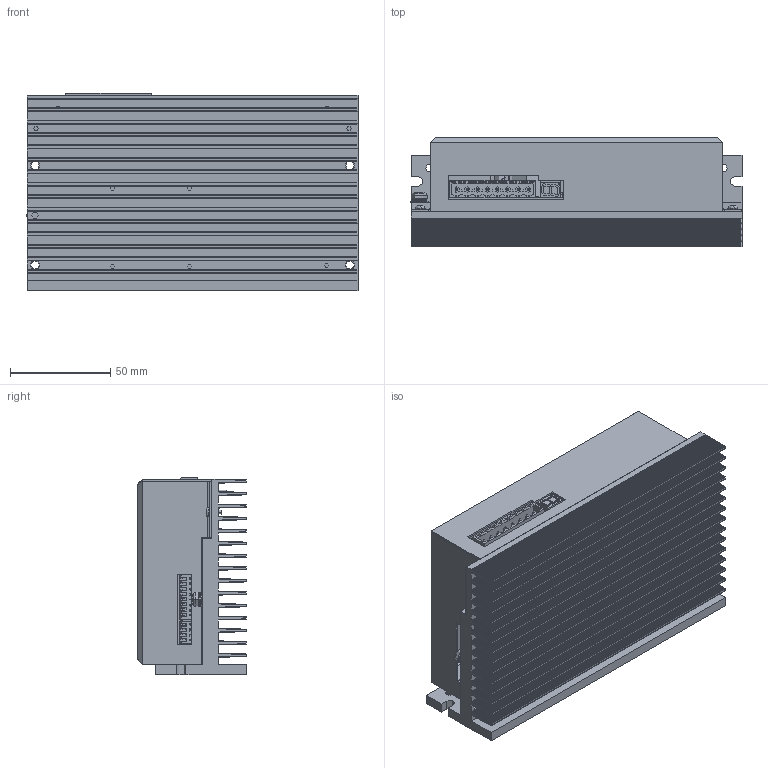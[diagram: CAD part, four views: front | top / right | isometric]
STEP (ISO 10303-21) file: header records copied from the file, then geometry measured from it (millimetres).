
FILE_DESCRIPTION((''),'2;1');
FILE_NAME('LW1D4080N0A1-00_ASM','2020-07-28T17:31:09',('Matteo Maccalli'),(''),'CREO PARAMETRIC BY PTC INC, 2019344','CREO PARAMETRIC BY PTC INC, 2019344','');
FILE_SCHEMA(('AUTOMOTIVE_DESIGN { 1 0 10303 214 1 1 1 1 }'));
Products named in the file (25): RA00742; AD-00744-00; DIST_MF_M2E5X5; PB-DMD00-00; 1757307; SMD_4-DIPSWITCH_RIGTH_ANGLE; SMD_8-DIPSWITCH_RIGTH_ANGLE; CE_16X25_P7E62; WPW05VIS-00; 1881516; 1881464; SMD_COND_ELETTROL_6E3X6E3; SMD_COND_ELETTROL_8X10E5; LHWPW05-00; TO263AB; C-1241050-04-3-A7; LS7MH-5X20-V; CP8E5X26E5P22E5; DMD00-V03_ASM; TCC_M2E5X06; MC_00775-00; MAR-PN4; MAR_SN4; TCC_M4X08; LW1D4080N0A1-00_ASM
Assembly tree (42 placements, depth 3):
  LW1D4080N0A1-00_ASM
    RA00742
    AD-00744-00
    DIST_MF_M2E5X5  x2
    DMD00-V03_ASM
      PB-DMD00-00
      1757307
      SMD_4-DIPSWITCH_RIGTH_ANGLE
      SMD_8-DIPSWITCH_RIGTH_ANGLE
      CE_16X25_P7E62
      WPW05VIS-00
      1881516
      1881464
      SMD_COND_ELETTROL_6E3X6E3
      SMD_COND_ELETTROL_8X10E5  x2
      LHWPW05-00
      TO263AB  x8
      C-1241050-04-3-A7
      LS7MH-5X20-V
      CP8E5X26E5P22E5  x2
    TCC_M2E5X06  x9
    MC_00775-00
    MAR-PN4
    MAR_SN4
    TCC_M4X08
Bounding box: 165.5 x 54.3 x 98.46 mm (x, y, z)
Topology: 41 solids, 56 shells, 6542 faces, 17894 edges, 11703 vertices
Faces by surface type: plane 5017, cylinder 1271, sphere 106, torus 62, cone 52, bspline 34
Entity records: 259104 total; most frequent: CARTESIAN_POINT 46447, ORIENTED_EDGE 32600, DIRECTION 30454, PRESENTATION_STYLE_ASSIGNMENT 16919, EDGE_CURVE 16320, STYLED_ITEM 15653, CURVE_STYLE 15610, VECTOR 13352
